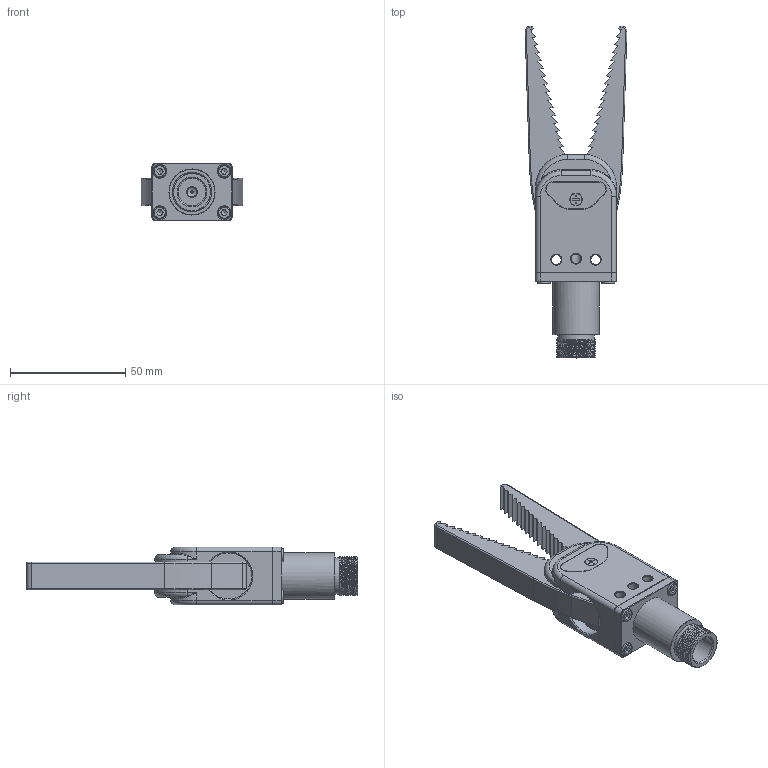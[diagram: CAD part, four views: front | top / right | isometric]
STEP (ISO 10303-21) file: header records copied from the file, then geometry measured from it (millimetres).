
FILE_DESCRIPTION(/* description */ (''),/* implementation_level */ '2;1');
FILE_NAME(/* name */ '_model1.stp',/* time_stamp */ '2023-03-08T15:03:16+08:00',/* author */ (''),/* organization */ (''),/* preprocessor_version */ 'ST-DEVELOPER v16',/* originating_system */ 'SIEMENS PLM Software NX 10.0',/* authorisation */ '');
FILE_SCHEMA (('AUTOMOTIVE_DESIGN { 1 0 10303 214 3 1 1 1 }'));
Length unit declared in the file: millimetre
Products named in the file (1): Admi115498B06j86
Bounding box: 44.11 x 143.91 x 25 mm (x, y, z)
Volume: 58286 mm3; surface area: 20812.4 mm2
Topology: 1 solids, 23 shells, 645 faces, 1513 edges, 934 vertices
Faces by surface type: plane 305, cylinder 167, cone 104, torus 42, bspline 25, sphere 2
Full cylindrical faces by diameter (mm): 0.8 x1, 2.5 x4, 3 x26, 3.2 x1, 3.4 x4, 3.541 x4, 4.2 x6, 5 x4, 5.2 x1, 5.5 x4, 6 x4, 7.8 x2, 12 x1, 15.8 x1, 20 x1
Entity records: 21754 total; most frequent: CARTESIAN_POINT 8018, DIRECTION 2877, ORIENTED_EDGE 2578, EDGE_CURVE 1289, AXIS2_PLACEMENT_3D 1097, VERTEX_POINT 883, EDGE_LOOP 848, LINE 683
